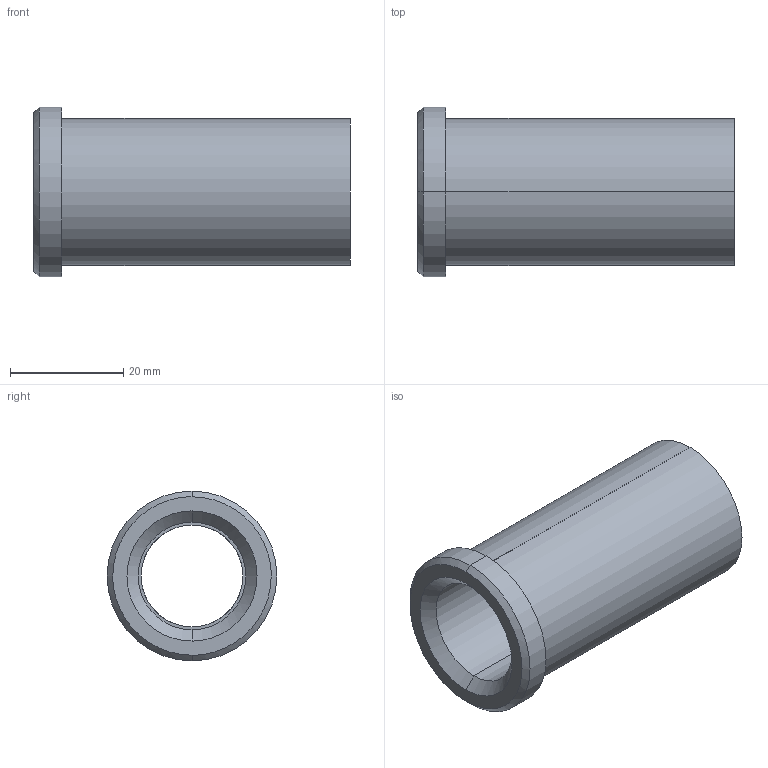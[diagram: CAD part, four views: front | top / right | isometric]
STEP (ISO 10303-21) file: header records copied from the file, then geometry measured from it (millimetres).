
FILE_DESCRIPTION(('CATIA V5 STEP Exchange'),'2;1');
FILE_NAME('C:\Users\Utente\Desktop\IO LAVORO\3D X SITO CF\X SITO\PLASTICA\353\353-18X56.stp','2021-05-08T08:41:55+00:00',('none'),('none'),'CATIA Version 5 Release 20 GA (IN-10)','CATIA V5 STEP AP203','none');
FILE_SCHEMA(('CONFIG_CONTROL_DESIGN'));
Length unit declared in the file: millimetre
Products named in the file (1): 353-18X56
Bounding box: 56 x 30 x 30 mm (x, y, z)
Volume: 15578.1 mm3; surface area: 8614.7 mm2
Topology: 1 solids, 1 shells, 18 faces, 58 edges, 44 vertices
Faces by surface type: cylinder 8, plane 4, cone 4, torus 2
Entity records: 840 total; most frequent: CARTESIAN_POINT 289, ORIENTED_EDGE 116, DIRECTION 82, EDGE_CURVE 58, AXIS2_PLACEMENT_3D 53, VERTEX_POINT 44, CIRCLE 34, EDGE_LOOP 22
